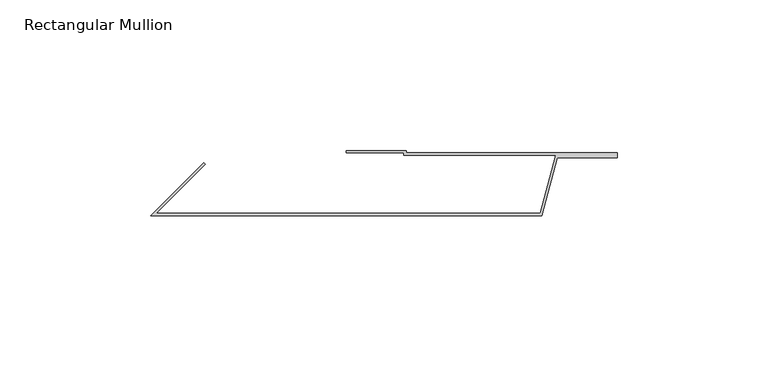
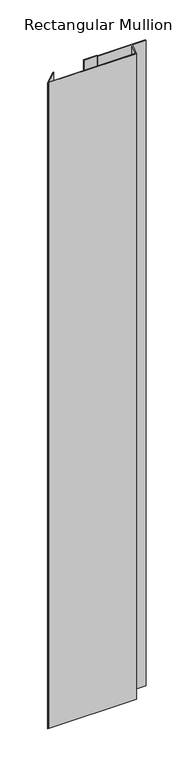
"""IFC4 building model written with IfcOpenShell, lengths in millimetres: member geometry, Rectangular Mullion : TI-V-01_02_Joint flashing."""

from ifc_helpers import new_model, si_unit, frame, origin, place, context, project, spatial, polyline, outline, extrude, source, transform, mapped, element, save


def rectangular_mullion_43938598(model_context):
    return source(origin(), model_context, "Body", "SweptSolid", [
        extrude(outline(polyline([(0.0, 0.0), (0.0, -0.8), (70.1186468, -0.8), (70.1186468, -2.4), (50.1763809, -2.4), (45.0, -21.7185165), (-85.0, -21.7185165), (-67.3223305, -4.040847), (-66.756645, -4.6065324), (-83.0686292, -20.9185165), (44.3861384, -20.9185165), (49.5625193, -1.6), (-0.8, -1.6), (-0.8, -0.8), (-20.0, -0.8), (-20.0, 0.0), (0.0, 0.0)])), frame((0.0, 0.0, -1000.0), z_axis=(0.0, 0.0, 1.0), x_axis=(1.0, 0.0, 0.0)), (0.0, 0.0, 1.0), 1000.0),
    ])


if __name__ == "__main__":
    model = new_model("IFC4")
    model_context = context("Model", 3, world=origin())
    ifc_project = project(units=[si_unit("LENGTHUNIT", "METRE", prefix="MILLI")], contexts=[model_context])
    site = spatial("IfcSite", under=ifc_project)
    building = spatial("IfcBuilding", under=site)
    placement = place(None, origin())
    rectangular_mullion_shape = rectangular_mullion_43938598(model_context)
    element("IfcMember", 1, ObjectType="Rectangular Mullion : TI-V-01_02_Joint flashing", at=placement, inside=building, context=model_context, shape_type="MappedRepresentation", body=[
        mapped(rectangular_mullion_shape, transform((0.0, 0.0, 0.0), x_axis=(1.0, 0.0, 0.0), y_axis=(0.0, 1.0, 0.0), z_axis=(0.0, 0.0, 1.0))),
    ])
    save(model, "model.ifc")
